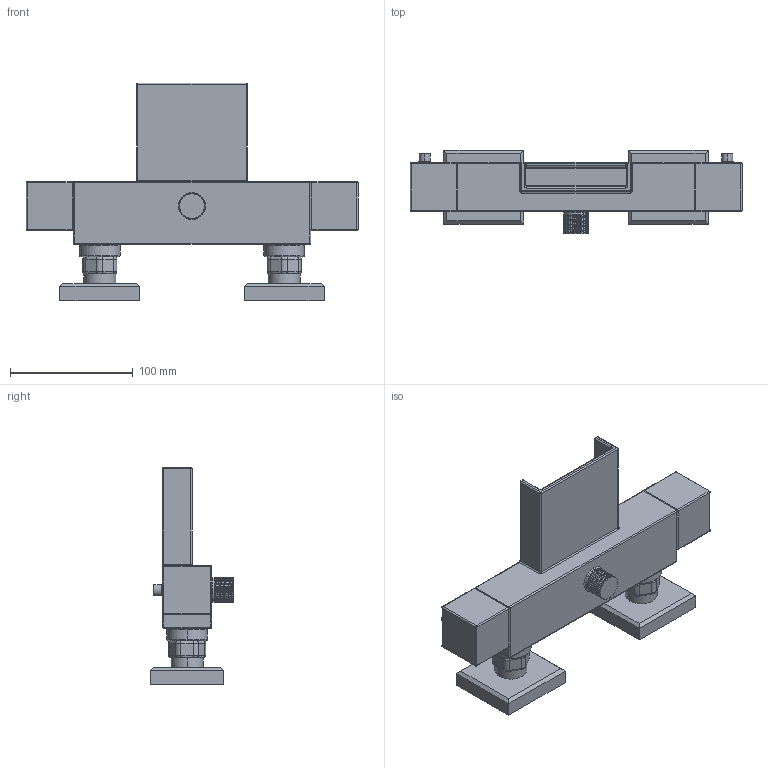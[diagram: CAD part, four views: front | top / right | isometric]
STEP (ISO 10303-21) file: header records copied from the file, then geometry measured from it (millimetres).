
FILE_DESCRIPTION (( 'STEP AP214' ), '1' );
FILE_NAME ('84CR111THWFKM.STEP', '2020-04-10T15:22:57', ( '' ), ( '' ), 'SwSTEP 2.0', 'SolidWorks 2017', '' );
FILE_SCHEMA (( 'AUTOMOTIVE_DESIGN' ));
Length unit declared in the file: millimetre
Products named in the file (1): 84CR111THWFKM
Bounding box: 270 x 68 x 177 mm (x, y, z)
Volume: 785605.1 mm3; surface area: 122535.1 mm2
Topology: 4 solids, 4 shells, 337 faces, 779 edges, 434 vertices
Faces by surface type: cylinder 134, plane 90, torus 48, bspline 39, sphere 26
Entity records: 12544 total; most frequent: CARTESIAN_POINT 5240, DIRECTION 1588, ORIENTED_EDGE 1506, EDGE_CURVE 753, AXIS2_PLACEMENT_3D 648, VERTEX_POINT 434, CIRCLE 349, EDGE_LOOP 347
